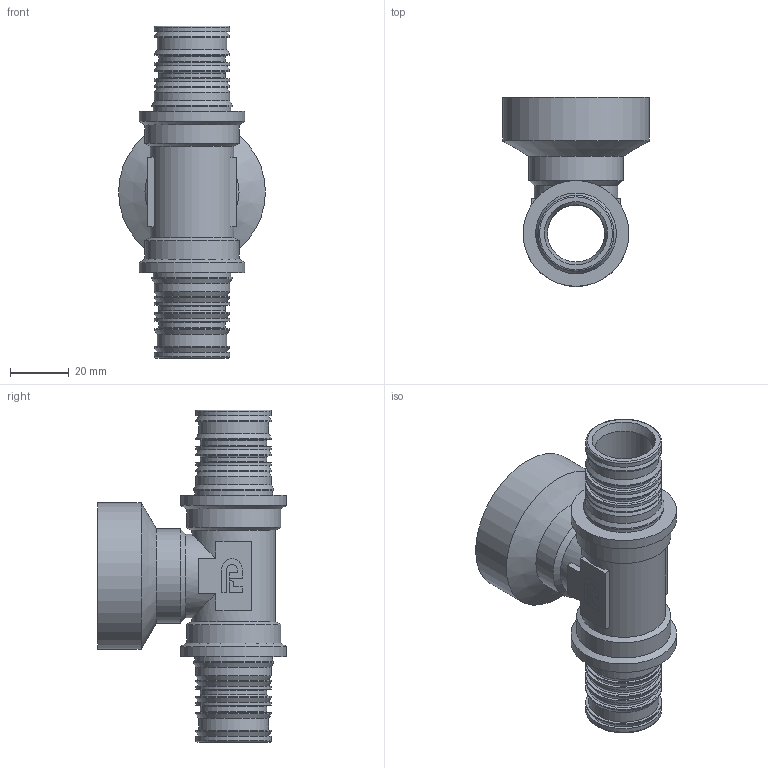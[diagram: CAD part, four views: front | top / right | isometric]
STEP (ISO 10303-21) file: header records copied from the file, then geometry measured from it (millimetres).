
FILE_DESCRIPTION(/* description */ (''),/* implementation_level */ '2;1');
FILE_NAME(/* name */ 'C:\Users\Doom\Desktop\Фадотех\Пресс\HDT18-1 31.03.2020\HDT18-1 31.03.2020.stp',/* time_stamp */ '2022-08-12T18:47:39+03:00',/* author */ ('Doom'),/* organization */ (''),/* preprocessor_version */ 'ST-DEVELOPER v18',/* originating_system */ 'Autodesk Inventor 2020',/* authorisation */ '');
FILE_SCHEMA (('AUTOMOTIVE_DESIGN { 1 0 10303 214 3 1 1 }'));
Length unit declared in the file: millimetre
Products named in the file (1): HDT18-1 31.03.2020
Bounding box: 50 x 64.3 x 113 mm (x, y, z)
Volume: 51018.1 mm3; surface area: 35874.4 mm2
Topology: 2 solids, 2 shells, 171 faces, 478 edges, 337 vertices
Faces by surface type: plane 79, cylinder 46, cone 22, bspline 14, torus 10
Full cylindrical faces by diameter (mm): 19.5 x1, 22.6 x4, 23.8 x2, 25 x1, 25.8 x16, 26.5 x2, 27.5 x2, 28.5 x2, 32 x3, 36 x2, 38.476 x6, 41.9 x2, 50 x1
Entity records: 9594 total; most frequent: CARTESIAN_POINT 5012, DIRECTION 962, ORIENTED_EDGE 952, EDGE_CURVE 476, AXIS2_PLACEMENT_3D 380, VERTEX_POINT 336, CIRCLE 219, EDGE_LOOP 204
